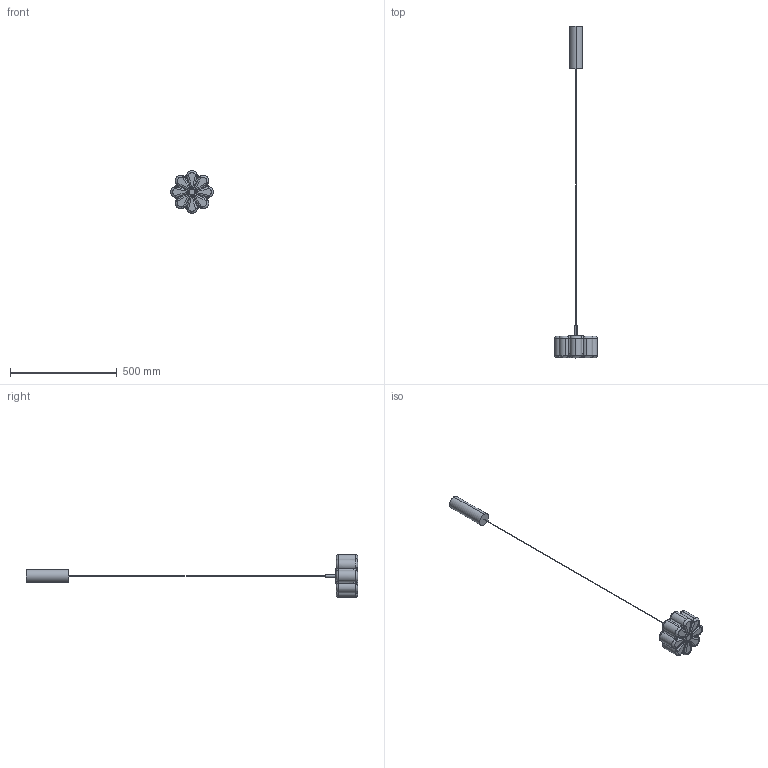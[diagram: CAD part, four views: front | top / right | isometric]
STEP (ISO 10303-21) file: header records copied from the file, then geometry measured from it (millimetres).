
FILE_DESCRIPTION (( 'STEP AP214' ), '1' );
FILE_NAME ('FLOW_C1339.STEP', '2024-10-22T10:11:43', ( '' ), ( '' ), 'SwSTEP 2.0', 'SolidWorks 2018', '' );
FILE_SCHEMA (( 'AUTOMOTIVE_DESIGN' ));
Length unit declared in the file: millimetre
Products named in the file (3): FLOW_C1339; DEFITULIPA; ESTRUCTURA COLGANTE SIMPLE
Assembly tree (2 placements, depth 2):
  FLOW_C1339
    ESTRUCTURA COLGANTE SIMPLE
    DEFITULIPA
Bounding box: 200 x 1553 x 200 mm (x, y, z)
Volume: 3235392.1 mm3; surface area: 184861.5 mm2
Topology: 6 solids, 6 shells, 165 faces, 377 edges, 224 vertices
Faces by surface type: bspline 40, torus 32, cylinder 31, plane 28, sphere 18, cone 16
Entity records: 7911 total; most frequent: CARTESIAN_POINT 3676, ORIENTED_EDGE 754, DIRECTION 675, EDGE_CURVE 377, AXIS2_PLACEMENT_3D 314, VERTEX_POINT 224, CIRCLE 184, FACE_OUTER_BOUND 165
